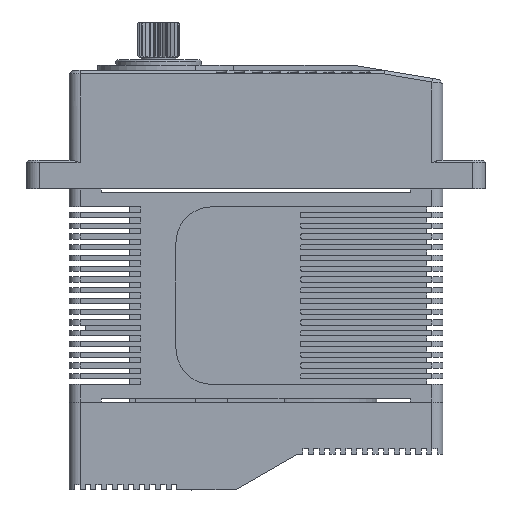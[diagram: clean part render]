
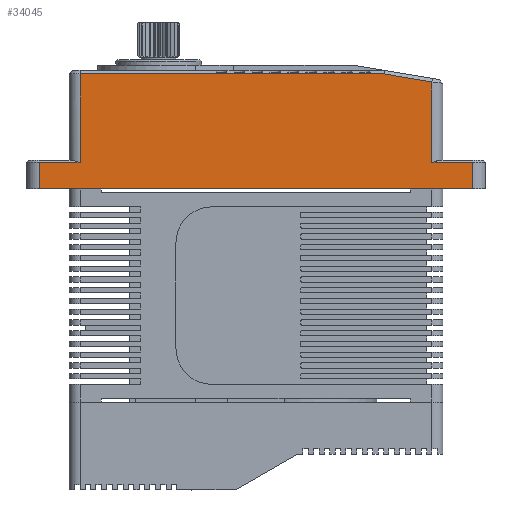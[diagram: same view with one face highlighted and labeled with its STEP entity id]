
A CAD part, front view. The second image highlights one B-rep face of the part: STEP entity #34045.
In plain terms, the highlighted planar face has unit normal (0, -1, 0).
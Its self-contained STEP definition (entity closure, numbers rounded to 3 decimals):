
#1278 = LINE ( 'NONE', #13979, #1892 ) ;
#1462 = CARTESIAN_POINT ( 'NONE',  ( -90.814, -25.638, 26.2 ) ) ;
#1892 = VECTOR ( 'NONE', #24773, 1000. ) ;
#2711 = VERTEX_POINT ( 'NONE', #10585 ) ;
#2806 = CARTESIAN_POINT ( 'NONE',  ( -90.814, -25.638, 18.7 ) ) ;
#2889 = AXIS2_PLACEMENT_3D ( 'NONE', #7901, #26747, #18981 ) ;
#3486 = CARTESIAN_POINT ( 'NONE',  ( -96.714, -25.638, 26.2 ) ) ;
#3809 = EDGE_CURVE ( 'NONE', #37230, #10177, #13126, .T. ) ;
#4240 = CARTESIAN_POINT ( 'NONE',  ( -90.814, -25.638, 50.8 ) ) ;
#4405 = DIRECTION ( 'NONE',  ( 1., 0., 0. ) ) ;
#4814 = VERTEX_POINT ( 'NONE', #27651 ) ;
#5144 = ORIENTED_EDGE ( 'NONE', *, *, #46031, .F. ) ;
#5327 = EDGE_CURVE ( 'NONE', #30212, #11441, #38016, .T. ) ;
#5400 = ORIENTED_EDGE ( 'NONE', *, *, #48542, .F. ) ;
#6522 = EDGE_CURVE ( 'NONE', #10177, #33681, #12550, .T. ) ;
#7901 = CARTESIAN_POINT ( 'NONE',  ( -90.814, -25.638, 19.7 ) ) ;
#8630 = CARTESIAN_POINT ( 'NONE',  ( 12.886, -25.638, 26.2 ) ) ;
#10177 = VERTEX_POINT ( 'NONE', #37898 ) ;
#10327 = LINE ( 'NONE', #12662, #30971 ) ;
#10346 = CARTESIAN_POINT ( 'NONE',  ( 12.886, -25.638, 19.7 ) ) ;
#10585 = CARTESIAN_POINT ( 'NONE',  ( -11.862, -25.638, 50.8 ) ) ;
#10751 = VECTOR ( 'NONE', #11016, 1000. ) ;
#11016 = DIRECTION ( 'NONE',  ( 0., 0., -1. ) ) ;
#11034 = PLANE ( 'NONE',  #2889 ) ;
#11441 = VERTEX_POINT ( 'NONE', #3486 ) ;
#12343 = CARTESIAN_POINT ( 'NONE',  ( -108.114, -25.638, 18.7 ) ) ;
#12550 = LINE ( 'NONE', #28263, #30162 ) ;
#12662 = CARTESIAN_POINT ( 'NONE',  ( -11.862, -25.638, 50.8 ) ) ;
#13126 = LINE ( 'NONE', #41161, #10751 ) ;
#13979 = CARTESIAN_POINT ( 'NONE',  ( -108.114, -25.638, 19.7 ) ) ;
#14245 = ORIENTED_EDGE ( 'NONE', *, *, #46344, .F. ) ;
#14420 = VECTOR ( 'NONE', #36822, 1000. ) ;
#17651 = DIRECTION ( 'NONE',  ( 1., 0., 0. ) ) ;
#18975 = CARTESIAN_POINT ( 'NONE',  ( -96.714, -25.638, 19.7 ) ) ;
#18981 = DIRECTION ( 'NONE',  ( -1., 0., 0. ) ) ;
#19178 = VECTOR ( 'NONE', #4405, 1000. ) ;
#19365 = EDGE_LOOP ( 'NONE', ( #14245, #5400, #32278, #30370, #5144, #42991, #40542, #28370, #46301 ) ) ;
#20306 = DIRECTION ( 'NONE',  ( 1., 0., 0. ) ) ;
#22800 = LINE ( 'NONE', #2806, #14420 ) ;
#23967 = LINE ( 'NONE', #18975, #36344 ) ;
#24773 = DIRECTION ( 'NONE',  ( 0., 0., 1. ) ) ;
#26747 = DIRECTION ( 'NONE',  ( 0., 1., 0. ) ) ;
#27651 = CARTESIAN_POINT ( 'NONE',  ( 12.886, -25.638, 18.7 ) ) ;
#27726 = DIRECTION ( 'NONE',  ( 0., 0., -1. ) ) ;
#27982 = VECTOR ( 'NONE', #20306, 1000. ) ;
#28263 = CARTESIAN_POINT ( 'NONE',  ( -90.814, -25.638, 26.2 ) ) ;
#28347 = EDGE_CURVE ( 'NONE', #33681, #4814, #47726, .T. ) ;
#28370 = ORIENTED_EDGE ( 'NONE', *, *, #6522, .F. ) ;
#29192 = LINE ( 'NONE', #4240, #19178 ) ;
#29935 = VERTEX_POINT ( 'NONE', #47005 ) ;
#30162 = VECTOR ( 'NONE', #17651, 1000. ) ;
#30212 = VERTEX_POINT ( 'NONE', #33962 ) ;
#30357 = DIRECTION ( 'NONE',  ( 0., 0., 1. ) ) ;
#30370 = ORIENTED_EDGE ( 'NONE', *, *, #5327, .F. ) ;
#30971 = VECTOR ( 'NONE', #35156, 1000. ) ;
#32278 = ORIENTED_EDGE ( 'NONE', *, *, #38410, .F. ) ;
#33681 = VERTEX_POINT ( 'NONE', #8630 ) ;
#33962 = CARTESIAN_POINT ( 'NONE',  ( -108.114, -25.638, 26.2 ) ) ;
#34045 = ADVANCED_FACE ( 'NONE', ( #48807 ), #11034, .F. ) ;
#35156 = DIRECTION ( 'NONE',  ( 0.986, 0., -0.166 ) ) ;
#36344 = VECTOR ( 'NONE', #30357, 1000. ) ;
#36822 = DIRECTION ( 'NONE',  ( -1., 0., 0. ) ) ;
#37230 = VERTEX_POINT ( 'NONE', #38096 ) ;
#37547 = VECTOR ( 'NONE', #27726, 1000. ) ;
#37898 = CARTESIAN_POINT ( 'NONE',  ( 1.486, -25.638, 26.2 ) ) ;
#38016 = LINE ( 'NONE', #1462, #27982 ) ;
#38096 = CARTESIAN_POINT ( 'NONE',  ( 1.486, -25.638, 48.56 ) ) ;
#38336 = EDGE_CURVE ( 'NONE', #4814, #41407, #22800, .T. ) ;
#38410 = EDGE_CURVE ( 'NONE', #11441, #29935, #23967, .T. ) ;
#40542 = ORIENTED_EDGE ( 'NONE', *, *, #28347, .F. ) ;
#41161 = CARTESIAN_POINT ( 'NONE',  ( 1.486, -25.638, 19.7 ) ) ;
#41407 = VERTEX_POINT ( 'NONE', #12343 ) ;
#42991 = ORIENTED_EDGE ( 'NONE', *, *, #38336, .F. ) ;
#46031 = EDGE_CURVE ( 'NONE', #41407, #30212, #1278, .T. ) ;
#46301 = ORIENTED_EDGE ( 'NONE', *, *, #3809, .F. ) ;
#46344 = EDGE_CURVE ( 'NONE', #2711, #37230, #10327, .T. ) ;
#47005 = CARTESIAN_POINT ( 'NONE',  ( -96.714, -25.638, 50.8 ) ) ;
#47726 = LINE ( 'NONE', #10346, #37547 ) ;
#48542 = EDGE_CURVE ( 'NONE', #29935, #2711, #29192, .T. ) ;
#48807 = FACE_OUTER_BOUND ( 'NONE', #19365, .T. ) ;
